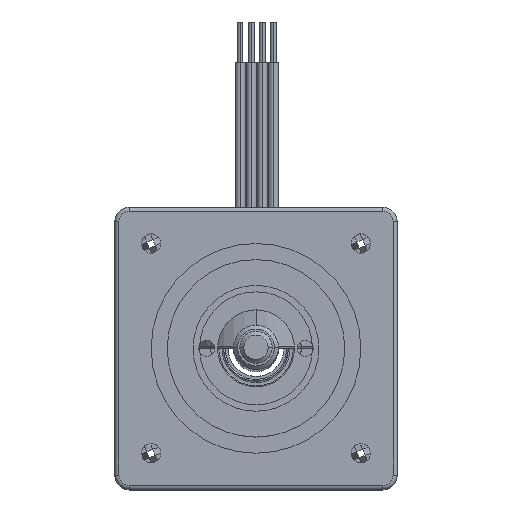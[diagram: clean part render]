
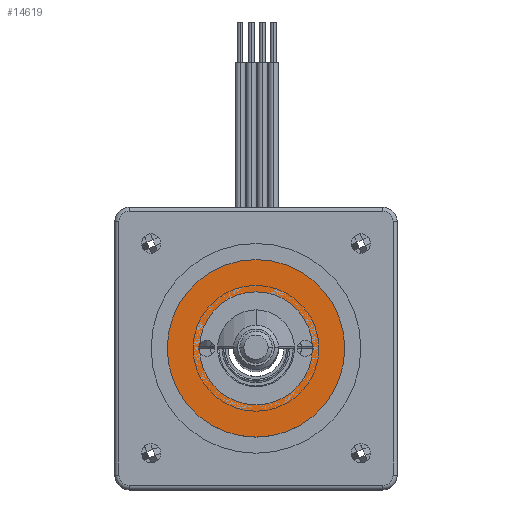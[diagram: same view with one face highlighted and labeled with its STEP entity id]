
A CAD part, top view. The second image highlights one B-rep face of the part: STEP entity #14619.
In plain terms, the highlighted planar face has unit normal (0, 0, 1).
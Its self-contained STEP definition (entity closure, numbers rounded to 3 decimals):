
#722 = ORIENTED_EDGE ( 'NONE', *, *, #13048, .F. ) ;
#761 = ORIENTED_EDGE ( 'NONE', *, *, #12890, .T. ) ;
#829 = ORIENTED_EDGE ( 'NONE', *, *, #12783, .F. ) ;
#861 = ORIENTED_EDGE ( 'NONE', *, *, #12972, .T. ) ;
#3247 = AXIS2_PLACEMENT_3D ( 'NONE', #12160, #12161, #12162 ) ;
#3259 = FACE_OUTER_BOUND ( 'NONE', #10206, .T. ) ;
#3263 = FACE_BOUND ( 'NONE', #10224, .T. ) ;
#3665 = CARTESIAN_POINT ( 'NONE',  ( 1.076, -0.563, 26.3 ) ) ;
#3666 = DIRECTION ( 'NONE',  ( 0., 0., 1. ) ) ;
#3667 = DIRECTION ( 'NONE',  ( 1., 0., 0. ) ) ;
#4247 = CIRCLE ( 'NONE', #8047, 7. ) ;
#4446 = AXIS2_PLACEMENT_3D ( 'NONE', #4782, #4783, #4784 ) ;
#4539 = AXIS2_PLACEMENT_3D ( 'NONE', #5141, #5151, #5152 ) ;
#4782 = CARTESIAN_POINT ( 'NONE',  ( 1.076, -0.563, 26.3 ) ) ;
#4783 = DIRECTION ( 'NONE',  ( 0., 0., 1. ) ) ;
#4784 = DIRECTION ( 'NONE',  ( 1., 0., 0. ) ) ;
#5141 = CARTESIAN_POINT ( 'NONE',  ( 1.076, -0.563, 26.3 ) ) ;
#5151 = DIRECTION ( 'NONE',  ( 0., 0., 1. ) ) ;
#5152 = DIRECTION ( 'NONE',  ( 1., 0., 0. ) ) ;
#5440 = CARTESIAN_POINT ( 'NONE',  ( 1.076, -0.563, 26.3 ) ) ;
#5441 = DIRECTION ( 'NONE',  ( 0., 0., 1. ) ) ;
#5442 = DIRECTION ( 'NONE',  ( 1., 0., 0. ) ) ;
#6624 = AXIS2_PLACEMENT_3D ( 'NONE', #3665, #3666, #3667 ) ;
#8047 = AXIS2_PLACEMENT_3D ( 'NONE', #5440, #5441, #5442 ) ;
#10206 = EDGE_LOOP ( 'NONE', ( #761, #861 ) ) ;
#10224 = EDGE_LOOP ( 'NONE', ( #829, #722 ) ) ;
#11210 = CARTESIAN_POINT ( 'NONE',  ( 8.076, -0.563, 26.3 ) ) ;
#11368 = CARTESIAN_POINT ( 'NONE',  ( -5.924, -0.563, 26.3 ) ) ;
#11416 = CARTESIAN_POINT ( 'NONE',  ( -9.924, -0.563, 26.3 ) ) ;
#11459 = CARTESIAN_POINT ( 'NONE',  ( 12.076, -0.563, 26.3 ) ) ;
#12159 = PLANE ( 'NONE',  #3247 ) ;
#12160 = CARTESIAN_POINT ( 'NONE',  ( 1.076, -0.563, 26.3 ) ) ;
#12161 = DIRECTION ( 'NONE',  ( 0., 0., 1. ) ) ;
#12162 = DIRECTION ( 'NONE',  ( 1., 0., 0. ) ) ;
#12783 = EDGE_CURVE ( 'NONE', #14133, #14291, #13338, .T. ) ;
#12890 = EDGE_CURVE ( 'NONE', #14339, #14382, #13396, .T. ) ;
#12972 = EDGE_CURVE ( 'NONE', #14382, #14339, #13516, .T. ) ;
#13048 = EDGE_CURVE ( 'NONE', #14291, #14133, #4247, .T. ) ;
#13338 = CIRCLE ( 'NONE', #6624, 7. ) ;
#13396 = CIRCLE ( 'NONE', #4446, 11. ) ;
#13516 = CIRCLE ( 'NONE', #4539, 11. ) ;
#14133 = VERTEX_POINT ( 'NONE', #11210 ) ;
#14291 = VERTEX_POINT ( 'NONE', #11368 ) ;
#14339 = VERTEX_POINT ( 'NONE', #11416 ) ;
#14382 = VERTEX_POINT ( 'NONE', #11459 ) ;
#14619 = ADVANCED_FACE ( 'NONE', ( #3263, #3259 ), #12159, .T. ) ;
